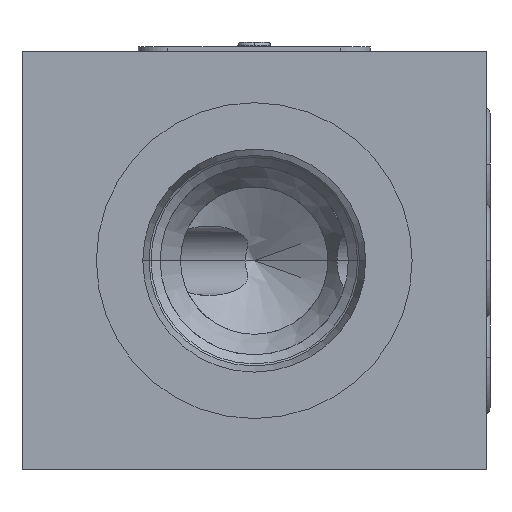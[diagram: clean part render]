
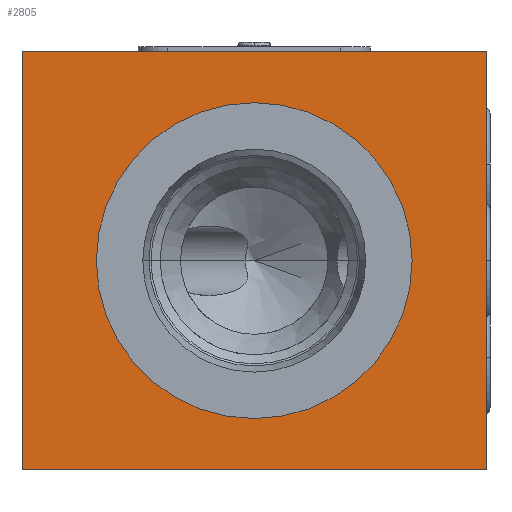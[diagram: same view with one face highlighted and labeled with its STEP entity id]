
A CAD part, left-side view. The second image highlights one B-rep face of the part: STEP entity #2805.
In plain terms, the highlighted planar face has unit normal (-1, 0, 0).
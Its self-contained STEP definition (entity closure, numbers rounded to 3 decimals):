
#55=DIRECTION('',(0.,0.,-1.));
#56=VECTOR('',#55,45.);
#57=CARTESIAN_POINT('',(0.,0.,0.));
#58=LINE('',#57,#56);
#62=DIRECTION('',(0.,1.,0.));
#63=VECTOR('',#62,50.);
#64=CARTESIAN_POINT('',(0.,0.,-45.));
#65=LINE('',#64,#63);
#69=DIRECTION('',(0.,0.,1.));
#70=VECTOR('',#69,45.);
#71=CARTESIAN_POINT('',(0.,50.,-45.));
#72=LINE('',#71,#70);
#76=DIRECTION('',(0.,-1.,0.));
#77=VECTOR('',#76,50.);
#78=CARTESIAN_POINT('',(0.,50.,0.));
#79=LINE('',#78,#77);
#83=CARTESIAN_POINT('',(0.,25.,-22.5));
#84=DIRECTION('',(1.,0.,0.));
#85=DIRECTION('',(0.,-1.,0.));
#86=AXIS2_PLACEMENT_3D('',#83,#84,#85);
#91=CARTESIAN_POINT('',(0.,25.,-22.5));
#92=DIRECTION('',(1.,0.,0.));
#93=DIRECTION('',(0.,1.,0.));
#94=AXIS2_PLACEMENT_3D('',#91,#92,#93);
#2526=CARTESIAN_POINT('',(0.,0.,0.));
#2527=CARTESIAN_POINT('',(0.,0.,-45.));
#2528=VERTEX_POINT('',#2526);
#2529=VERTEX_POINT('',#2527);
#2530=CARTESIAN_POINT('',(0.,50.,-45.));
#2531=VERTEX_POINT('',#2530);
#2532=CARTESIAN_POINT('',(0.,50.,0.));
#2533=VERTEX_POINT('',#2532);
#2716=CARTESIAN_POINT('',(0.,8.,-22.5));
#2717=VERTEX_POINT('',#2716);
#2718=CARTESIAN_POINT('',(0.,42.,-22.5));
#2719=VERTEX_POINT('',#2718);
#2784=CARTESIAN_POINT('',(0.,0.,0.));
#2785=DIRECTION('',(1.,0.,0.));
#2786=DIRECTION('',(0.,0.,-1.));
#2787=AXIS2_PLACEMENT_3D('',#2784,#2785,#2786);
#2788=PLANE('',#2787);
#2790=ORIENTED_EDGE('',*,*,#2789,.T.);
#2792=ORIENTED_EDGE('',*,*,#2791,.T.);
#2794=ORIENTED_EDGE('',*,*,#2793,.T.);
#2796=ORIENTED_EDGE('',*,*,#2795,.T.);
#2797=EDGE_LOOP('',(#2790,#2792,#2794,#2796));
#2798=FACE_OUTER_BOUND('',#2797,.F.);
#2800=ORIENTED_EDGE('',*,*,#2799,.F.);
#2802=ORIENTED_EDGE('',*,*,#2801,.F.);
#2803=EDGE_LOOP('',(#2800,#2802));
#2804=FACE_BOUND('',#2803,.F.);
#87=CIRCLE('',#86,17.);
#95=CIRCLE('',#94,17.);
#2789=EDGE_CURVE('',#2528,#2529,#58,.T.);
#2791=EDGE_CURVE('',#2529,#2531,#65,.T.);
#2793=EDGE_CURVE('',#2531,#2533,#72,.T.);
#2795=EDGE_CURVE('',#2533,#2528,#79,.T.);
#2799=EDGE_CURVE('',#2717,#2719,#87,.T.);
#2801=EDGE_CURVE('',#2719,#2717,#95,.T.);
#2805=ADVANCED_FACE('',(#2798,#2804),#2788,.F.);
